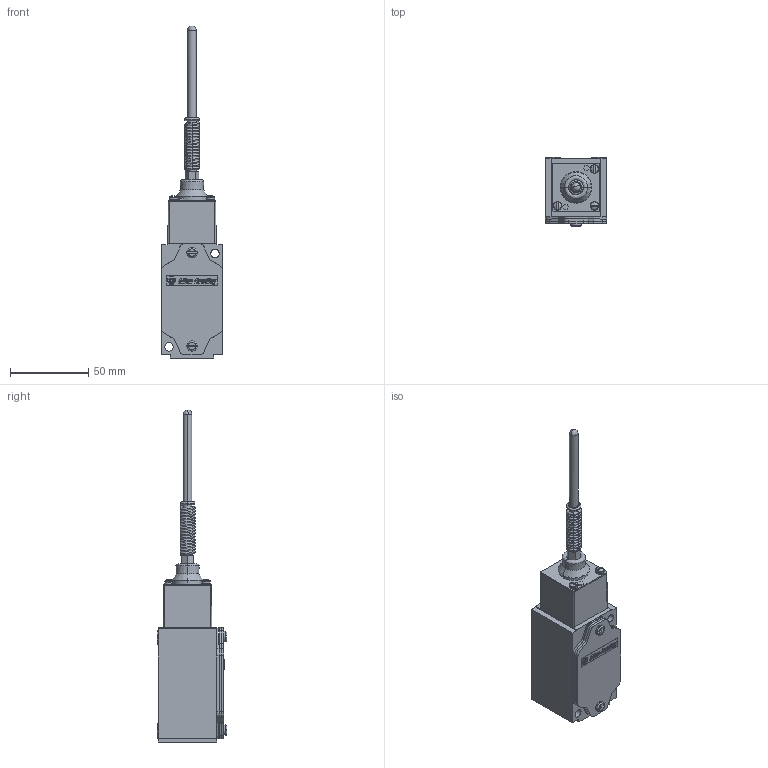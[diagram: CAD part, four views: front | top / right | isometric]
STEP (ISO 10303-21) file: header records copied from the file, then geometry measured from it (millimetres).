
FILE_DESCRIPTION (( 'STEP AP214' ), '1' );
FILE_NAME ('802R-CWF.STEP', '2009-07-25T00:19:24', ( 'me' ), ( '' ), 'SwSTEP 2.0', 'SolidWorks 2007', '' );
FILE_SCHEMA (( 'AUTOMOTIVE_DESIGN' ));
Length unit declared in the file: millimetre
Products named in the file (1): 802R-CWF
Bounding box: 39.36 x 44.3 x 211.59 mm (x, y, z)
Volume: 145768.4 mm3; surface area: 42482.6 mm2
Topology: 35 solids, 35 shells, 931 faces, 2470 edges, 1611 vertices
Faces by surface type: plane 645, bspline 212, cylinder 70, cone 4
Entity records: 43705 total; most frequent: CARTESIAN_POINT 10778, ORIENTED_EDGE 4936, DIRECTION 4160, EDGE_CURVE 2468, VECTOR 1764, LINE 1764, VERTEX_POINT 1611, AXIS2_PLACEMENT_3D 1198
